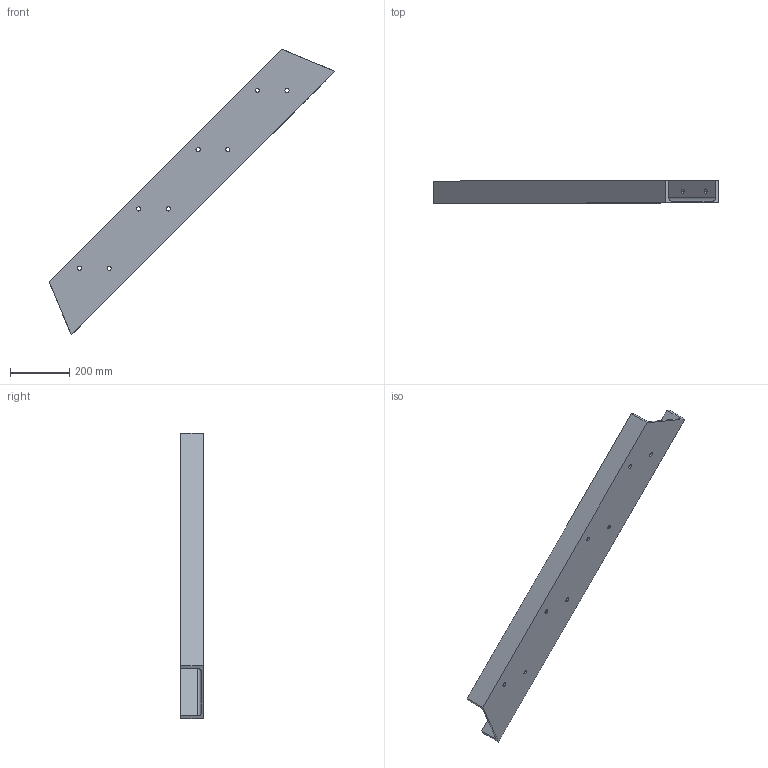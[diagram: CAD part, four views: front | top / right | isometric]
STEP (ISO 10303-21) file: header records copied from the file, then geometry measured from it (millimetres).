
FILE_DESCRIPTION (( 'STEP AP214' ), '1' );
FILE_NAME ('CCJ029-REP.053 - MONTANT ESCALIER SUPERIEUR DOUBLE 2 SYM.STEP', '2024-01-31T09:29:29', ( '' ), ( '' ), 'SwSTEP 2.0', 'SolidWorks 2021', '' );
FILE_SCHEMA (( 'AUTOMOTIVE_DESIGN' ));
Length unit declared in the file: millimetre
Products named in the file (1): CCJ029-REP.053 - MONTANT ESCALIER SUPERIEUR DOUBLE 2 SYM
Bounding box: 964.56 x 75 x 964.56 mm (x, y, z)
Volume: 2963544.1 mm3; surface area: 761604 mm2
Topology: 1 solids, 1 shells, 76 faces, 210 edges, 140 vertices
Faces by surface type: bspline 31, plane 23, cylinder 22
Entity records: 4358 total; most frequent: CARTESIAN_POINT 2526, ORIENTED_EDGE 420, DIRECTION 276, EDGE_CURVE 210, VERTEX_POINT 140, VECTOR 104, LINE 104, EDGE_LOOP 100
